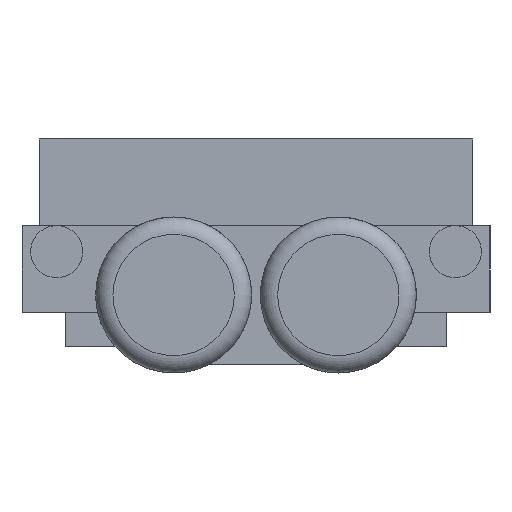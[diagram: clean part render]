
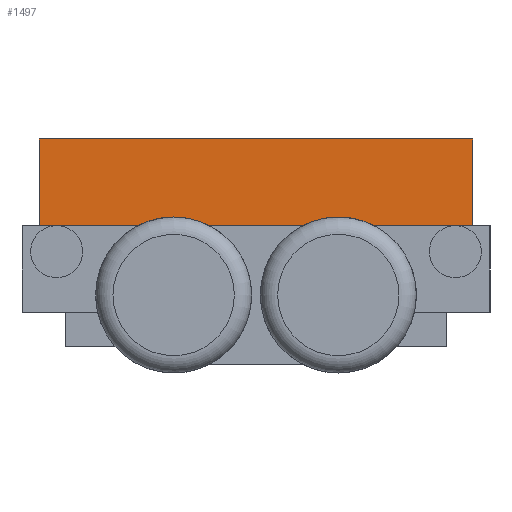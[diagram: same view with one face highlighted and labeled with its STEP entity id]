
A CAD part, left-side view. The second image highlights one B-rep face of the part: STEP entity #1497.
In plain terms, the highlighted planar face has unit normal (-1, 0, 0).
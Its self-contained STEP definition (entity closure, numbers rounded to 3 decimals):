
#141=FACE_OUTER_BOUND('',#229,.T.);
#229=EDGE_LOOP('',(#1180,#1181,#1182,#1183));
#382=LINE('',#2379,#546);
#400=LINE('',#2417,#564);
#401=LINE('',#2420,#565);
#402=LINE('',#2421,#566);
#546=VECTOR('',#1915,10.);
#564=VECTOR('',#1945,10.);
#565=VECTOR('',#1948,10.);
#566=VECTOR('',#1949,10.);
#685=VERTEX_POINT('',#2376);
#686=VERTEX_POINT('',#2378);
#700=VERTEX_POINT('',#2415);
#701=VERTEX_POINT('',#2419);
#858=EDGE_CURVE('',#685,#686,#382,.T.);
#878=EDGE_CURVE('',#685,#700,#400,.T.);
#879=EDGE_CURVE('',#701,#700,#401,.T.);
#880=EDGE_CURVE('',#686,#701,#402,.T.);
#1180=ORIENTED_EDGE('',*,*,#858,.F.);
#1181=ORIENTED_EDGE('',*,*,#878,.T.);
#1182=ORIENTED_EDGE('',*,*,#879,.F.);
#1183=ORIENTED_EDGE('',*,*,#880,.F.);
#1421=PLANE('',#1614);
#1497=ADVANCED_FACE('',(#141),#1421,.T.);
#1614=AXIS2_PLACEMENT_3D('',#2418,#1946,#1947);
#1915=DIRECTION('',(0.,1.,0.));
#1945=DIRECTION('',(0.,0.,1.));
#1946=DIRECTION('center_axis',(-1.,0.,0.));
#1947=DIRECTION('ref_axis',(0.,-1.,0.));
#1948=DIRECTION('',(0.,-1.,0.));
#1949=DIRECTION('',(0.,0.,1.));
#2376=CARTESIAN_POINT('',(5.75,-12.5,0.));
#2378=CARTESIAN_POINT('',(5.75,12.5,0.));
#2379=CARTESIAN_POINT('',(5.75,6.25,0.));
#2415=CARTESIAN_POINT('',(5.75,-12.5,5.));
#2417=CARTESIAN_POINT('',(5.75,-12.5,0.));
#2418=CARTESIAN_POINT('Origin',(5.75,12.5,0.));
#2419=CARTESIAN_POINT('',(5.75,12.5,5.));
#2420=CARTESIAN_POINT('',(5.75,-12.5,5.));
#2421=CARTESIAN_POINT('',(5.75,12.5,0.));
